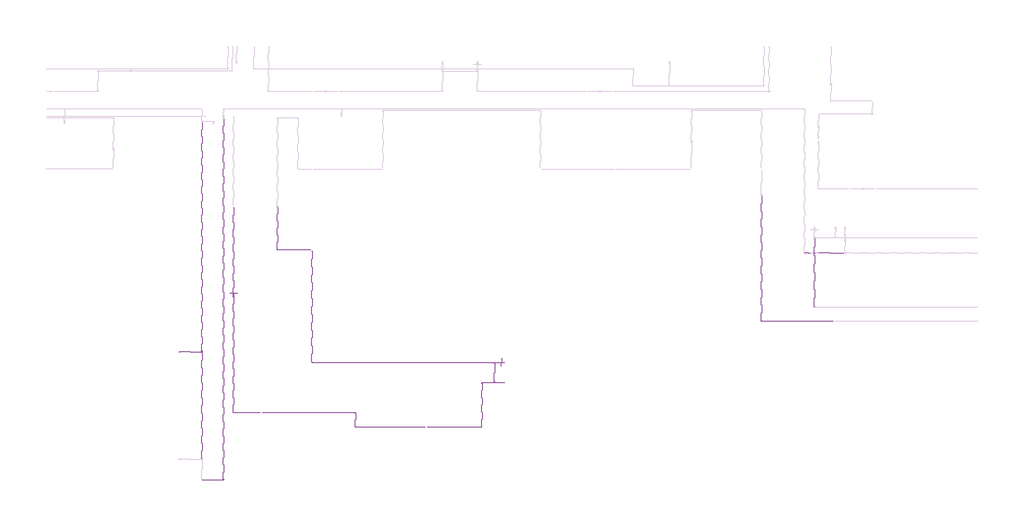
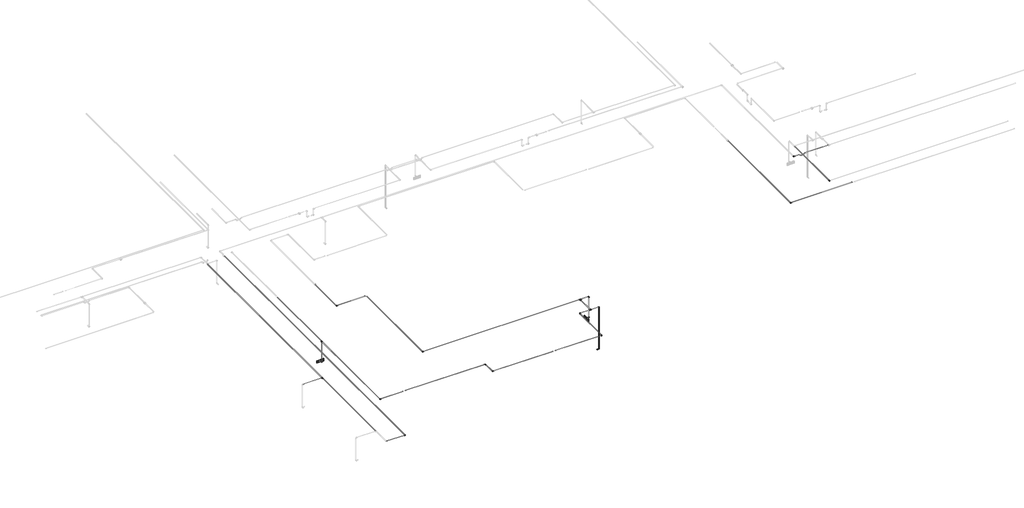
# One storey, part 2 of 13: 35 cable carrier segments, 20 cable carrier fittings, 2 alarms.
"""IFC4 building model written with IfcOpenShell, lengths in millimetres."""

from ifc_helpers import new_model, si_unit, point, frame, frame_2d, origin, place, context, project, spatial, circle_curve, trimmed, segment, composite_curve, outline, extrude, transform, mapped, element, save
from ifc_brep_helpers import plane_surface, cylinder_surface, advanced_brep
from components import alarm_4b7e8fd8, cable_carrier_fitting_69f1a801, cable_carrier_fitting_8fd13dfc

model = new_model("IFC4")

# Units and contexts
model_context = context("Model", 3, world=origin())
ifc_project = project(units=[si_unit("LENGTHUNIT", "METRE", prefix="MILLI")], contexts=[model_context])

# Site, building, storey
site = spatial("IfcSite", under=ifc_project)
building = spatial("IfcBuilding", under=site)
storey = spatial("IfcBuildingStorey", under=building, Name="2 этаж", Elevation=3500.0)

# Alarms
placement = place(None, origin())
alarm_shape = alarm_4b7e8fd8(model_context)
element("IfcAlarm", 1, ObjectType="RBZ_Оповещатель_Световой_Рубеж_ОПОП1-R3(грань) : ОПОП 1-R3 \"Выход\"", at=placement, inside=storey, context=model_context, shape_type="MappedRepresentation", body=[
    mapped(alarm_shape, transform((-3772.3240021, -5352.8629895, 6000.0), x_axis=(0.0, -1.0, 0.0), y_axis=(0.0, 0.0, 1.0), z_axis=(-1.0, 0.0, 0.0))),
])
element("IfcAlarm", 2, ObjectType="RBZ_Оповещатель_Световой_Рубеж_ОПОП1-R3(грань) : ОПОП 1-R3 \"Выход\"", at=placement, inside=storey, context=model_context, shape_type="MappedRepresentation", body=[
    mapped(alarm_shape, transform((-14174.8240021, -2680.3629895, 6000.0), x_axis=(-1.0, 0.0, 0.0), y_axis=(0.0, 0.0, 1.0), z_axis=(0.0, 1.0, 0.0))),
])

# Cable carrier fittings
cable_carrier_fitting_shape = cable_carrier_fitting_69f1a801(model_context)
element("IfcCableCarrierFitting", 3, ObjectType="ADSK_Поворот_Минимальный размер : Неспецифицируемый", at=placement, inside=storey, context=model_context, shape_type="MappedRepresentation", body=[
    mapped(cable_carrier_fitting_shape, transform((-9445.8240021, -7865.3629895, 6986.95), x_axis=(0.0, -1.0, 0.0), y_axis=(1.0, 0.0, 0.0), z_axis=(0.0, 0.0, 1.0))),
])
element("IfcCableCarrierFitting", 4, ObjectType="ADSK_Поворот_Минимальный размер : Неспецифицируемый", at=placement, inside=storey, context=model_context, shape_type="MappedRepresentation", body=[
    mapped(cable_carrier_fitting_shape, transform((-9445.8240021, -7305.3629895, 6986.95), x_axis=(0.0, 1.0, 0.0), y_axis=(-1.0, 0.0, 0.0), z_axis=(0.0, 0.0, 1.0))),
])
element("IfcCableCarrierFitting", 5, ObjectType="ADSK_Поворот_Минимальный размер : Неспецифицируемый", at=placement, inside=storey, context=model_context, shape_type="MappedRepresentation", body=[
    mapped(cable_carrier_fitting_shape, transform((-4545.8240021, -7865.3629895, 6986.95), x_axis=(1.0, 0.0, 0.0), y_axis=(0.0, 1.0, 0.0), z_axis=(0.0, 0.0, 1.0))),
])
element("IfcCableCarrierFitting", 6, ObjectType="ADSK_Поворот_Минимальный размер : Неспецифицируемый", at=placement, inside=storey, context=model_context, shape_type="MappedRepresentation", body=[
    mapped(cable_carrier_fitting_shape, transform((-12472.3240021, -980.3629895, 6986.95), x_axis=(0.0, -1.0, 0.0), y_axis=(1.0, 0.0, 0.0), z_axis=(0.0, 0.0, 1.0))),
])
element("IfcCableCarrierFitting", 7, ObjectType="ADSK_Поворот_Минимальный размер : Неспецифицируемый", at=placement, inside=storey, context=model_context, shape_type="MappedRepresentation", body=[
    mapped(cable_carrier_fitting_shape, transform((-4545.8240021, -6142.8629895, 6986.95), x_axis=(-1.0, 0.0, 0.0), y_axis=(0.0, -1.0, 0.0), z_axis=(0.0, 0.0, 1.0))),
])
element("IfcCableCarrierFitting", 8, ObjectType="ADSK_Поворот_Минимальный размер : Неспецифицируемый", at=placement, inside=storey, context=model_context, shape_type="MappedRepresentation", body=[
    mapped(cable_carrier_fitting_shape, transform((-11132.3240021, -5352.8629895, 6986.95), x_axis=(0.0, -1.0, 0.0), y_axis=(1.0, 0.0, 0.0), z_axis=(0.0, 0.0, 1.0))),
])
element("IfcCableCarrierFitting", 9, ObjectType="ADSK_Поворот_Минимальный размер : Неспецифицируемый", at=placement, inside=storey, context=model_context, shape_type="MappedRepresentation", body=[
    mapped(cable_carrier_fitting_shape, transform((8337.6759979, -3208.8629895, 6986.95), x_axis=(0.0, -1.0, 0.0), y_axis=(1.0, 0.0, 0.0), z_axis=(0.0, 0.0, 1.0))),
])
element("IfcCableCarrierFitting", 10, ObjectType="ADSK_Поворот_Минимальный размер : Неспецифицируемый", at=placement, inside=storey, context=model_context, shape_type="MappedRepresentation", body=[
    mapped(cable_carrier_fitting_shape, transform((6287.6759979, -3755.3629895, 6986.95), x_axis=(0.0, -1.0, 0.0), y_axis=(1.0, 0.0, 0.0), z_axis=(0.0, 0.0, 1.0))),
])
element("IfcCableCarrierFitting", 11, ObjectType="ADSK_Поворот_Минимальный размер : Неспецифицируемый", at=placement, inside=storey, context=model_context, shape_type="MappedRepresentation", body=[
    mapped(cable_carrier_fitting_shape, transform((-14554.8240021, -9910.3629895, 6990.0), x_axis=(1.0, 0.0, 0.0), y_axis=(0.0, 1.0, 0.0), z_axis=(0.0, 0.0, 1.0))),
])
element("IfcCableCarrierFitting", 12, ObjectType="ADSK_Поворот_Минимальный размер : Неспецифицируемый", at=placement, inside=storey, context=model_context, shape_type="MappedRepresentation", body=[
    mapped(cable_carrier_fitting_shape, transform((-14174.8240021, -7305.3629895, 6986.95), x_axis=(0.0, -0.9999999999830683, -5.819235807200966e-06), y_axis=(1.0000000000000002, 0.0, 0.0), z_axis=(0.0, -5.819235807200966e-06, 0.9999999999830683))),
])
element("IfcCableCarrierFitting", 13, ObjectType="ADSK_Поворот_Минимальный размер : Неспецифицируемый", at=placement, inside=storey, context=model_context, shape_type="MappedRepresentation", body=[
    mapped(cable_carrier_fitting_shape, transform((-14174.8240021, -2777.5627951, 6000.0), x_axis=(0.0, -1.0, 0.0), y_axis=(0.0, 0.0, 1.0), z_axis=(-1.0, 0.0, 0.0))),
])
element("IfcCableCarrierFitting", 14, ObjectType="ADSK_Поворот_Минимальный размер : Неспецифицируемый", at=placement, inside=storey, context=model_context, shape_type="MappedRepresentation", body=[
    mapped(cable_carrier_fitting_shape, transform((-3675.1241965, -6142.8629895, 5000.0), x_axis=(1.0, 0.0, 0.0), y_axis=(0.0, 0.0, 1.0), z_axis=(0.0, -1.0, 0.0))),
])
element("IfcCableCarrierFitting", 15, ObjectType="ADSK_Поворот_Минимальный размер : Неспецифицируемый", at=placement, inside=storey, context=model_context, shape_type="MappedRepresentation", body=[
    mapped(cable_carrier_fitting_shape, transform((-3675.1241965, -6142.8629895, 6986.95), x_axis=(0.0, 0.0, 1.0), y_axis=(-1.0, 0.0, 0.0), z_axis=(0.0, -1.0, 0.0))),
])
element("IfcCableCarrierFitting", 16, ObjectType="ADSK_Поворот_Минимальный размер : Неспецифицируемый", at=placement, inside=storey, context=model_context, shape_type="MappedRepresentation", body=[
    mapped(cable_carrier_fitting_shape, transform((-3675.1241965, -5352.8629895, 6000.0), x_axis=(1.0, 0.0, 0.0), y_axis=(0.0, 0.0, 1.0), z_axis=(0.0, -1.0, 0.0))),
])
element("IfcCableCarrierFitting", 17, ObjectType="ADSK_Поворот_Минимальный размер : Неспецифицируемый", at=placement, inside=storey, context=model_context, shape_type="MappedRepresentation", body=[
    mapped(cable_carrier_fitting_shape, transform((-3675.1241965, -5352.8629895, 6986.95), x_axis=(0.0, 0.0, 1.0), y_axis=(-1.0, 0.0, 0.0), z_axis=(0.0, -1.0, 0.0))),
])
element("IfcCableCarrierFitting", 18, ObjectType="ADSK_Поворот_Минимальный размер : Неспецифицируемый", at=placement, inside=storey, context=model_context, shape_type="MappedRepresentation", body=[
    mapped(cable_carrier_fitting_shape, transform((7960.1759979, -1105.3629895, 6990.0), x_axis=(0.0, -1.0, 0.0), y_axis=(1.0, 0.0, 0.0), z_axis=(0.0, 0.0, 1.0))),
])
cable_carrier_fitting_2_shape = cable_carrier_fitting_8fd13dfc(model_context)
element("IfcCableCarrierFitting", 19, ObjectType="ADSK_Тройник : ПВХ", at=placement, inside=storey, context=model_context, shape_type="MappedRepresentation", body=[
    mapped(cable_carrier_fitting_2_shape, transform((-4065.7263214, -5352.8629895, 6986.95), x_axis=(1.0, 0.0, 0.0), y_axis=(0.0, 1.0, 0.0), z_axis=(0.0, 0.0, 1.0))),
])
element("IfcCableCarrierFitting", 20, ObjectType="ADSK_Тройник : ПВХ", at=placement, inside=storey, context=model_context, shape_type="MappedRepresentation", body=[
    mapped(cable_carrier_fitting_2_shape, transform((-4065.7263214, -6142.8629895, 6986.95), x_axis=(-1.0, 0.0, 0.0), y_axis=(0.0, -1.0, 0.0), z_axis=(0.0, 0.0, 1.0))),
])
element("IfcCableCarrierFitting", 21, ObjectType="ADSK_Тройник : ПВХ", at=placement, inside=storey, context=model_context, shape_type="MappedRepresentation", body=[
    mapped(cable_carrier_fitting_2_shape, transform((-15397.3240021, -4942.8629895, 6990.0), x_axis=(0.0, -1.0, 0.0), y_axis=(1.0, 0.0, 0.0), z_axis=(0.0, 0.0, 1.0))),
])
element("IfcCableCarrierFitting", 22, ObjectType="ADSK_Тройник : ПВХ", at=placement, inside=storey, context=model_context, shape_type="MappedRepresentation", body=[
    mapped(cable_carrier_fitting_2_shape, transform((-14174.8240021, -2777.5627951, 6986.9500528), x_axis=(0.0, -0.9999999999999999, 1.539577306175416e-08), y_axis=(0.0, 1.539577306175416e-08, 0.9999999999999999), z_axis=(-1.0, 0.0, 0.0))),
])

# Cable carrier segments
element("IfcCableCarrierSegment", 23, ObjectType="Гофрированная труба", at=placement, inside=storey, context=model_context, shape_type="AdvancedBrep", body=[
    advanced_brep(
    [(-14164.8240021, -2747.5627951, 6986.9500524), (-14174.8240021, -2747.562795, 6996.9500524), (-14184.8240021, -2747.5627951, 6986.9500524), (-14174.8240021, -2747.5627953, 6976.9500524), (-14164.8240021, 653.1370105, 6986.95), (-14174.8240021, 653.1370103, 6976.95), (-14184.8240021, 653.1370105, 6986.95), (-14174.8240021, 653.1370106, 6996.95)],
    [
        (0, 1, circle_curve(frame((-14174.8240021, -2747.5627951, 6986.9500524), z_axis=(0.0, -1.0, 0.0), x_axis=(1.0, 0.0, 0.0)), 10.0)),
        (1, 2, circle_curve(frame((-14174.8240021, -2747.562795, 6986.9500524), z_axis=(0.0, -1.0, 0.0), x_axis=(1.0, 0.0, 0.0)), 10.0)),
        (2, 3, circle_curve(frame((-14174.8240021, -2747.5627951, 6986.9500524), z_axis=(0.0, -1.0, 0.0), x_axis=(1.0, 0.0, 0.0)), 10.0)),
        (3, 0, circle_curve(frame((-14174.8240021, -2747.5627953, 6986.9500524), z_axis=(0.0, -1.0, 0.0), x_axis=(1.0, 0.0, 0.0)), 10.0)),
        (4, 5, circle_curve(frame((-14174.8240021, 653.1370105, 6986.9500524), z_axis=(0.0, 1.0, 0.0), x_axis=(1.0, 0.0, 0.0)), 10.0)),
        (5, 6, circle_curve(frame((-14174.8240021, 653.1370103, 6986.9500524), z_axis=(0.0, 1.0, 0.0), x_axis=(1.0, 0.0, 0.0)), 10.0000524)),
        (6, 7, circle_curve(frame((-14174.8240021, 653.1370105, 6986.9500524), z_axis=(0.0, 1.0, 0.0), x_axis=(1.0, 0.0, 0.0)), 10.0)),
        (7, 4, circle_curve(frame((-14174.8240021, 653.1370106, 6986.9500524), z_axis=(0.0, 1.0, 0.0), x_axis=(1.0, 0.0, 0.0)), 9.9999476)),
        (0, 4),
        (7, 1),
        (6, 2),
        (5, 3),
    ],
    [
        plane_surface(frame((-14184.8240021, -2747.5627951, 6986.9500524), z_axis=(0.0, -1.0, 1.53957717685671e-08), x_axis=(0.0, 1.53957717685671e-08, 1.0))),
        plane_surface(frame((-14184.8240021, 653.1370105, 6986.95), z_axis=(0.0, 1.0, -1.5395770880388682e-08), x_axis=(0.0, 1.5395770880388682e-08, 1.0))),
        cylinder_surface(frame((-14174.8240021, -2747.5627951, 6986.9500524), z_axis=(0.0, -1.0, 0.0), x_axis=(1.0, 0.0, 0.0)), 10.0),
    ],
    [
        (0, [[1, 2, 3, 4]]),
        (1, [[5, 6, 7, 8]]),
        (2, [[-1, 9, -8, 10]]),
        (2, [[-2, -10, -7, 11]]),
        (2, [[-3, -11, -6, 12]]),
        (2, [[-4, -12, -5, -9]]),
    ],
),
])
element("IfcCableCarrierSegment", 24, ObjectType="Гофрированная труба", at=placement, inside=storey, context=model_context, shape_type="SweptSolid", body=[
    extrude(outline(composite_curve([segment(trimmed(circle_curve(frame_2d((-7305.3629895, 6986.95)), 10.0), [point((-7295.3629895, 6986.9500582))], [point((-7305.3629313, 6976.95))], False, "CARTESIAN"), True, "CONTINUOUS"), segment(trimmed(circle_curve(frame_2d((-7305.3629895, 6986.95)), 10.0), [point((-7305.3629313, 6976.95))], [point((-7315.3629895, 6986.9499418))], False, "CARTESIAN"), True, "CONTINUOUS"), segment(trimmed(circle_curve(frame_2d((-7305.3629895, 6986.95)), 10.0), [point((-7315.3629895, 6986.9499418))], [point((-7305.3630477, 6996.95))], False, "CARTESIAN"), True, "CONTINUOUS"), segment(trimmed(circle_curve(frame_2d((-7305.3629895, 6986.95)), 10.0), [point((-7305.3630477, 6996.95))], [point((-7295.3629895, 6986.9500582))], False, "CARTESIAN"), True, "CONTINUOUS")], self_intersect=False)), frame((-14153.8240021, 0.0, 0.0), z_axis=(1.0, 0.0, 0.0), x_axis=(0.0, 1.0, 0.0)), (0.0, 0.0, 1.0), 1015.0),
])
element("IfcCableCarrierSegment", 25, ObjectType="Гофрированная труба", at=placement, inside=storey, context=model_context, shape_type="SweptSolid", body=[
    extrude(outline(composite_curve([segment(trimmed(circle_curve(frame_2d((-7305.3629895, 6986.95)), 10.0), [point((-7315.3629895, 6986.95))], [point((-7305.3629895, 6996.95))], False, "CARTESIAN"), True, "CONTINUOUS"), segment(trimmed(circle_curve(frame_2d((-7305.3629895, 6986.95)), 10.0), [point((-7305.3629895, 6996.95))], [point((-7295.3629895, 6986.95))], False, "CARTESIAN"), True, "CONTINUOUS"), segment(trimmed(circle_curve(frame_2d((-7305.3629895, 6986.95)), 10.0), [point((-7295.3629895, 6986.95))], [point((-7305.3629895, 6976.95))], False, "CARTESIAN"), True, "CONTINUOUS"), segment(trimmed(circle_curve(frame_2d((-7305.3629895, 6986.95)), 10.0), [point((-7305.3629895, 6976.95))], [point((-7315.3629895, 6986.95))], False, "CARTESIAN"), True, "CONTINUOUS")], self_intersect=False)), frame((-13045.8240021, 0.0, 0.0), z_axis=(1.0, 0.0, 0.0), x_axis=(0.0, 1.0, 0.0)), (0.0, 0.0, 1.0), 3579.0),
])
element("IfcCableCarrierSegment", 26, ObjectType="Гофрированная труба", at=placement, inside=storey, context=model_context, shape_type="SweptSolid", body=[
    extrude(outline(composite_curve([segment(trimmed(circle_curve(frame_2d((6986.95, -9445.8240021)), 10.0), [point((6986.95, -9435.8240021))], [point((6996.95, -9445.8240021))], False, "CARTESIAN"), True, "CONTINUOUS"), segment(trimmed(circle_curve(frame_2d((6986.95, -9445.8240021)), 10.0), [point((6996.95, -9445.8240021))], [point((6986.95, -9455.8240021))], False, "CARTESIAN"), True, "CONTINUOUS"), segment(trimmed(circle_curve(frame_2d((6986.95, -9445.8240021)), 10.0), [point((6986.95, -9455.8240021))], [point((6976.95, -9445.8240021))], False, "CARTESIAN"), True, "CONTINUOUS"), segment(trimmed(circle_curve(frame_2d((6986.95, -9445.8240021)), 10.0), [point((6976.95, -9445.8240021))], [point((6986.95, -9435.8240021))], False, "CARTESIAN"), True, "CONTINUOUS")], self_intersect=False)), frame((0.0, -7844.3629895, 0.0), z_axis=(0.0, 1.0, 0.0), x_axis=(0.0, 0.0, 1.0)), (0.0, 0.0, 1.0), 518.0),
])
element("IfcCableCarrierSegment", 27, ObjectType="Гофрированная труба", at=placement, inside=storey, context=model_context, shape_type="SweptSolid", body=[
    extrude(outline(composite_curve([segment(trimmed(circle_curve(frame_2d((-7865.3629895, 6986.95)), 10.0), [point((-7855.3629895, 6986.95))], [point((-7865.3629895, 6976.95))], False, "CARTESIAN"), True, "CONTINUOUS"), segment(trimmed(circle_curve(frame_2d((-7865.3629895, 6986.95)), 10.0), [point((-7865.3629895, 6976.95))], [point((-7875.3629895, 6986.95))], False, "CARTESIAN"), True, "CONTINUOUS"), segment(trimmed(circle_curve(frame_2d((-7865.3629895, 6986.95)), 10.0), [point((-7875.3629895, 6986.95))], [point((-7865.3629895, 6996.95))], False, "CARTESIAN"), True, "CONTINUOUS"), segment(trimmed(circle_curve(frame_2d((-7865.3629895, 6986.95)), 10.0), [point((-7865.3629895, 6996.95))], [point((-7855.3629895, 6986.95))], False, "CARTESIAN"), True, "CONTINUOUS")], self_intersect=False)), frame((-9424.8240021, 0.0, 0.0), z_axis=(1.0, 0.0, 0.0), x_axis=(0.0, 1.0, 0.0)), (0.0, 0.0, 1.0), 2686.0),
])
element("IfcCableCarrierSegment", 28, ObjectType="Гофрированная труба", at=placement, inside=storey, context=model_context, shape_type="SweptSolid", body=[
    extrude(outline(composite_curve([segment(trimmed(circle_curve(frame_2d((-7865.3629895, 6986.95)), 10.0), [point((-7875.3629895, 6986.95))], [point((-7865.3629895, 6996.95))], False, "CARTESIAN"), True, "CONTINUOUS"), segment(trimmed(circle_curve(frame_2d((-7865.3629895, 6986.95)), 10.0), [point((-7865.3629895, 6996.95))], [point((-7855.3629895, 6986.95))], False, "CARTESIAN"), True, "CONTINUOUS"), segment(trimmed(circle_curve(frame_2d((-7865.3629895, 6986.95)), 10.0), [point((-7855.3629895, 6986.95))], [point((-7865.3629895, 6976.95))], False, "CARTESIAN"), True, "CONTINUOUS"), segment(trimmed(circle_curve(frame_2d((-7865.3629895, 6986.95)), 10.0), [point((-7865.3629895, 6976.95))], [point((-7875.3629895, 6986.95))], False, "CARTESIAN"), True, "CONTINUOUS")], self_intersect=False)), frame((-6645.8240021, 0.0, 0.0), z_axis=(1.0, 0.0, 0.0), x_axis=(0.0, 1.0, 0.0)), (0.0, 0.0, 1.0), 2079.0),
])
element("IfcCableCarrierSegment", 29, ObjectType="Гофрированная труба", at=placement, inside=storey, context=model_context, shape_type="SweptSolid", body=[
    extrude(outline(composite_curve([segment(trimmed(circle_curve(frame_2d((6986.95, -4545.8240021)), 10.0), [point((6986.95, -4555.8240021))], [point((6976.95, -4545.8240021))], False, "CARTESIAN"), True, "CONTINUOUS"), segment(trimmed(circle_curve(frame_2d((6986.95, -4545.8240021)), 10.0), [point((6976.95, -4545.8240021))], [point((6986.95, -4535.8240021))], False, "CARTESIAN"), True, "CONTINUOUS"), segment(trimmed(circle_curve(frame_2d((6986.95, -4545.8240021)), 10.0), [point((6986.95, -4535.8240021))], [point((6996.95, -4545.8240021))], False, "CARTESIAN"), True, "CONTINUOUS"), segment(trimmed(circle_curve(frame_2d((6986.95, -4545.8240021)), 10.0), [point((6996.95, -4545.8240021))], [point((6986.95, -4555.8240021))], False, "CARTESIAN"), True, "CONTINUOUS")], self_intersect=False)), frame((0.0, -7844.3629895, 0.0), z_axis=(0.0, 1.0, 0.0), x_axis=(0.0, 0.0, 1.0)), (0.0, 0.0, 1.0), 1680.5),
])
element("IfcCableCarrierSegment", 30, ObjectType="Гофрированная труба", at=placement, inside=storey, context=model_context, shape_type="SweptSolid", body=[
    extrude(outline(composite_curve([segment(trimmed(circle_curve(frame_2d((-5352.8629895, 6986.95)), 10.0), [point((-5342.8629895, 6986.95))], [point((-5352.8629895, 6976.95))], False, "CARTESIAN"), True, "CONTINUOUS"), segment(trimmed(circle_curve(frame_2d((-5352.8629895, 6986.95)), 10.0), [point((-5352.8629895, 6976.95))], [point((-5362.8629895, 6986.95))], False, "CARTESIAN"), True, "CONTINUOUS"), segment(trimmed(circle_curve(frame_2d((-5352.8629895, 6986.95)), 10.0), [point((-5362.8629895, 6986.95))], [point((-5352.8629895, 6996.95))], False, "CARTESIAN"), True, "CONTINUOUS"), segment(trimmed(circle_curve(frame_2d((-5352.8629895, 6986.95)), 10.0), [point((-5352.8629895, 6996.95))], [point((-5342.8629895, 6986.95))], False, "CARTESIAN"), True, "CONTINUOUS")], self_intersect=False)), frame((-11111.3240021, 0.0, 0.0), z_axis=(1.0, 0.0, 0.0), x_axis=(0.0, 1.0, 0.0)), (0.0, 0.0, 1.0), 7015.5976807),
])
element("IfcCableCarrierSegment", 31, ObjectType="Гофрированная труба", at=placement, inside=storey, context=model_context, shape_type="SweptSolid", body=[
    extrude(outline(composite_curve([segment(trimmed(circle_curve(frame_2d((6986.95, -11132.3240021)), 10.0), [point((6986.95, -11122.3240021))], [point((6996.95, -11132.3240021))], False, "CARTESIAN"), True, "CONTINUOUS"), segment(trimmed(circle_curve(frame_2d((6986.95, -11132.3240021)), 10.0), [point((6996.95, -11132.3240021))], [point((6986.95, -11142.3240021))], False, "CARTESIAN"), True, "CONTINUOUS"), segment(trimmed(circle_curve(frame_2d((6986.95, -11132.3240021)), 10.0), [point((6986.95, -11142.3240021))], [point((6976.95, -11132.3240021))], False, "CARTESIAN"), True, "CONTINUOUS"), segment(trimmed(circle_curve(frame_2d((6986.95, -11132.3240021)), 10.0), [point((6976.95, -11132.3240021))], [point((6986.95, -11122.3240021))], False, "CARTESIAN"), True, "CONTINUOUS")], self_intersect=False)), frame((0.0, -5331.8629895, 0.0), z_axis=(0.0, 1.0, 0.0), x_axis=(0.0, 0.0, 1.0)), (0.0, 0.0, 1.0), 4305.0),
])
element("IfcCableCarrierSegment", 32, ObjectType="Гофрированная труба", at=placement, inside=storey, context=model_context, shape_type="SweptSolid", body=[
    extrude(outline(composite_curve([segment(trimmed(circle_curve(frame_2d((-980.3629895, 6986.95)), 10.0), [point((-970.3629895, 6986.95))], [point((-980.3629895, 6976.95))], False, "CARTESIAN"), True, "CONTINUOUS"), segment(trimmed(circle_curve(frame_2d((-980.3629895, 6986.95)), 10.0), [point((-980.3629895, 6976.95))], [point((-990.3629895, 6986.95))], False, "CARTESIAN"), True, "CONTINUOUS"), segment(trimmed(circle_curve(frame_2d((-980.3629895, 6986.95)), 10.0), [point((-990.3629895, 6986.95))], [point((-980.3629895, 6996.95))], False, "CARTESIAN"), True, "CONTINUOUS"), segment(trimmed(circle_curve(frame_2d((-980.3629895, 6986.95)), 10.0), [point((-980.3629895, 6996.95))], [point((-970.3629895, 6986.95))], False, "CARTESIAN"), True, "CONTINUOUS")], self_intersect=False)), frame((-12451.3240021, 0.0, 0.0), z_axis=(1.0, 0.0, 0.0), x_axis=(0.0, 1.0, 0.0)), (0.0, 0.0, 1.0), 1272.5),
])
element("IfcCableCarrierSegment", 33, ObjectType="Гофрированная труба", at=placement, inside=storey, context=model_context, shape_type="SweptSolid", body=[
    extrude(outline(composite_curve([segment(trimmed(circle_curve(frame_2d((6986.95, -4065.7263214)), 10.0), [point((6986.95, -4055.7263214))], [point((6996.95, -4065.7263214))], False, "CARTESIAN"), True, "CONTINUOUS"), segment(trimmed(circle_curve(frame_2d((6986.95, -4065.7263214)), 10.0), [point((6996.95, -4065.7263214))], [point((6986.95, -4075.7263214))], False, "CARTESIAN"), True, "CONTINUOUS"), segment(trimmed(circle_curve(frame_2d((6986.95, -4065.7263214)), 10.0), [point((6986.95, -4075.7263214))], [point((6976.95, -4065.7263214))], False, "CARTESIAN"), True, "CONTINUOUS"), segment(trimmed(circle_curve(frame_2d((6986.95, -4065.7263214)), 10.0), [point((6976.95, -4065.7263214))], [point((6986.95, -4055.7263214))], False, "CARTESIAN"), True, "CONTINUOUS")], self_intersect=False)), frame((0.0, -6112.8629895, 0.0), z_axis=(0.0, 1.0, 0.0), x_axis=(0.0, 0.0, 1.0)), (0.0, 0.0, 1.0), 730.0),
])
element("IfcCableCarrierSegment", 34, ObjectType="Гофрированная труба", at=placement, inside=storey, context=model_context, shape_type="SweptSolid", body=[
    extrude(outline(composite_curve([segment(trimmed(circle_curve(frame_2d((-6142.8629895, 6986.95)), 10.0), [point((-6152.8629895, 6986.95))], [point((-6142.8629895, 6996.95))], False, "CARTESIAN"), True, "CONTINUOUS"), segment(trimmed(circle_curve(frame_2d((-6142.8629895, 6986.95)), 10.0), [point((-6142.8629895, 6996.95))], [point((-6132.8629895, 6986.95))], False, "CARTESIAN"), True, "CONTINUOUS"), segment(trimmed(circle_curve(frame_2d((-6142.8629895, 6986.95)), 10.0), [point((-6132.8629895, 6986.95))], [point((-6142.8629895, 6976.95))], False, "CARTESIAN"), True, "CONTINUOUS"), segment(trimmed(circle_curve(frame_2d((-6142.8629895, 6986.95)), 10.0), [point((-6142.8629895, 6976.95))], [point((-6152.8629895, 6986.95))], False, "CARTESIAN"), True, "CONTINUOUS")], self_intersect=False)), frame((-4524.8240021, 0.0, 0.0), z_axis=(1.0, 0.0, 0.0), x_axis=(0.0, 1.0, 0.0)), (0.0, 0.0, 1.0), 429.0976807),
])
element("IfcCableCarrierSegment", 35, ObjectType="Гофрированная труба", at=placement, inside=storey, context=model_context, shape_type="SweptSolid", body=[
    extrude(outline(composite_curve([segment(trimmed(circle_curve(frame_2d((6986.95, -12472.3240021)), 10.0), [point((6986.95, -12462.3240021))], [point((6996.95, -12472.3240021))], False, "CARTESIAN"), True, "CONTINUOUS"), segment(trimmed(circle_curve(frame_2d((6986.95, -12472.3240021)), 10.0), [point((6996.95, -12472.3240021))], [point((6986.95, -12482.3240021))], False, "CARTESIAN"), True, "CONTINUOUS"), segment(trimmed(circle_curve(frame_2d((6986.95, -12472.3240021)), 10.0), [point((6986.95, -12482.3240021))], [point((6976.95, -12472.3240021))], False, "CARTESIAN"), True, "CONTINUOUS"), segment(trimmed(circle_curve(frame_2d((6986.95, -12472.3240021)), 10.0), [point((6976.95, -12472.3240021))], [point((6986.95, -12462.3240021))], False, "CARTESIAN"), True, "CONTINUOUS")], self_intersect=False)), frame((0.0, -959.3629895, 0.0), z_axis=(0.0, 1.0, 0.0), x_axis=(0.0, 0.0, 1.0)), (0.0, 0.0, 1.0), 1633.0),
])
element("IfcCableCarrierSegment", 36, ObjectType="Гофрированная труба", at=placement, inside=storey, context=model_context, shape_type="SweptSolid", body=[
    extrude(outline(composite_curve([segment(trimmed(circle_curve(frame_2d((6986.95, 6287.6759979)), 10.0), [point((6986.95, 6297.6759979))], [point((6996.95, 6287.6759979))], False, "CARTESIAN"), True, "CONTINUOUS"), segment(trimmed(circle_curve(frame_2d((6986.95, 6287.6759979)), 10.0), [point((6996.95, 6287.6759979))], [point((6986.95, 6277.6759979))], False, "CARTESIAN"), True, "CONTINUOUS"), segment(trimmed(circle_curve(frame_2d((6986.95, 6287.6759979)), 10.0), [point((6986.95, 6277.6759979))], [point((6976.95, 6287.6759979))], False, "CARTESIAN"), True, "CONTINUOUS"), segment(trimmed(circle_curve(frame_2d((6986.95, 6287.6759979)), 10.0), [point((6976.95, 6287.6759979))], [point((6986.95, 6297.6759979))], False, "CARTESIAN"), True, "CONTINUOUS")], self_intersect=False)), frame((0.0, -3734.3629895, 0.0), z_axis=(0.0, 1.0, 0.0), x_axis=(0.0, 0.0, 1.0)), (0.0, 0.0, 1.0), 4853.0),
])
element("IfcCableCarrierSegment", 37, ObjectType="Гофрированная труба", at=placement, inside=storey, context=model_context, shape_type="SweptSolid", body=[
    extrude(outline(composite_curve([segment(trimmed(circle_curve(frame_2d((-3755.3629895, 6986.95)), 10.0), [point((-3745.3629895, 6986.95))], [point((-3755.3629895, 6976.95))], False, "CARTESIAN"), True, "CONTINUOUS"), segment(trimmed(circle_curve(frame_2d((-3755.3629895, 6986.95)), 10.0), [point((-3755.3629895, 6976.95))], [point((-3765.3629895, 6986.95))], False, "CARTESIAN"), True, "CONTINUOUS"), segment(trimmed(circle_curve(frame_2d((-3755.3629895, 6986.95)), 10.0), [point((-3765.3629895, 6986.95))], [point((-3755.3629895, 6996.95))], False, "CARTESIAN"), True, "CONTINUOUS"), segment(trimmed(circle_curve(frame_2d((-3755.3629895, 6986.95)), 10.0), [point((-3755.3629895, 6996.95))], [point((-3745.3629895, 6986.95))], False, "CARTESIAN"), True, "CONTINUOUS")], self_intersect=False)), frame((6308.6759979, 0.0, 0.0), z_axis=(1.0, 0.0, 0.0), x_axis=(0.0, 1.0, 0.0)), (0.0, 0.0, 1.0), 2752.5),
])
element("IfcCableCarrierSegment", 38, ObjectType="Гофрированная труба", at=placement, inside=storey, context=model_context, shape_type="SweptSolid", body=[
    extrude(outline(composite_curve([segment(trimmed(circle_curve(frame_2d((6986.95, 8337.6759979)), 10.0), [point((6986.95, 8347.6759979))], [point((6996.95, 8337.6759979))], False, "CARTESIAN"), True, "CONTINUOUS"), segment(trimmed(circle_curve(frame_2d((6986.95, 8337.6759979)), 10.0), [point((6996.95, 8337.6759979))], [point((6986.95, 8327.6759979))], False, "CARTESIAN"), True, "CONTINUOUS"), segment(trimmed(circle_curve(frame_2d((6986.95, 8337.6759979)), 10.0), [point((6986.95, 8327.6759979))], [point((6976.95, 8337.6759979))], False, "CARTESIAN"), True, "CONTINUOUS"), segment(trimmed(circle_curve(frame_2d((6986.95, 8337.6759979)), 10.0), [point((6976.95, 8337.6759979))], [point((6986.95, 8347.6759979))], False, "CARTESIAN"), True, "CONTINUOUS")], self_intersect=False)), frame((0.0, -3187.8629895, 0.0), z_axis=(0.0, 1.0, 0.0), x_axis=(0.0, 0.0, 1.0)), (0.0, 0.0, 1.0), 2652.5),
])
element("IfcCableCarrierSegment", 39, ObjectType="Гофрированная труба", at=placement, inside=storey, context=model_context, shape_type="SweptSolid", body=[
    extrude(outline(composite_curve([segment(trimmed(circle_curve(frame_2d((-1105.3629895, 6940.0)), 10.0), [point((-1095.3629895, 6940.0))], [point((-1105.3629895, 6930.0))], False, "CARTESIAN"), True, "CONTINUOUS"), segment(trimmed(circle_curve(frame_2d((-1105.3629895, 6940.0)), 10.0), [point((-1105.3629895, 6930.0))], [point((-1115.3629895, 6940.0))], False, "CARTESIAN"), True, "CONTINUOUS"), segment(trimmed(circle_curve(frame_2d((-1105.3629895, 6940.0)), 10.0), [point((-1115.3629895, 6940.0))], [point((-1105.3629895, 6950.0))], False, "CARTESIAN"), True, "CONTINUOUS"), segment(trimmed(circle_curve(frame_2d((-1105.3629895, 6940.0)), 10.0), [point((-1105.3629895, 6950.0))], [point((-1095.3629895, 6940.0))], False, "CARTESIAN"), True, "CONTINUOUS")], self_intersect=False)), frame((8286.9564551, 0.0, 0.0), z_axis=(1.0, 0.0, 0.0), x_axis=(0.0, 1.0, 0.0)), (0.0, 0.0, 1.0), 108.0075428),
])
element("IfcCableCarrierSegment", 40, ObjectType="Гофрированная труба", at=placement, inside=storey, context=model_context, shape_type="SweptSolid", body=[
    extrude(outline(composite_curve([segment(trimmed(circle_curve(frame_2d((-9910.3629895, 6990.0)), 10.0), [point((-9900.3629895, 6990.0))], [point((-9910.3629895, 6980.0))], False, "CARTESIAN"), True, "CONTINUOUS"), segment(trimmed(circle_curve(frame_2d((-9910.3629895, 6990.0)), 10.0), [point((-9910.3629895, 6980.0))], [point((-9920.3629895, 6990.0))], False, "CARTESIAN"), True, "CONTINUOUS"), segment(trimmed(circle_curve(frame_2d((-9910.3629895, 6990.0)), 10.0), [point((-9920.3629895, 6990.0))], [point((-9910.3629895, 7000.0))], False, "CARTESIAN"), True, "CONTINUOUS"), segment(trimmed(circle_curve(frame_2d((-9910.3629895, 6990.0)), 10.0), [point((-9910.3629895, 7000.0))], [point((-9900.3629895, 6990.0))], False, "CARTESIAN"), True, "CONTINUOUS")], self_intersect=False)), frame((-15376.3240021, 0.0, 0.0), z_axis=(1.0, 0.0, 0.0), x_axis=(0.0, 1.0, 0.0)), (0.0, 0.0, 1.0), 800.5),
])
element("IfcCableCarrierSegment", 41, ObjectType="Гофрированная труба", at=placement, inside=storey, context=model_context, shape_type="SweptSolid", body=[
    extrude(outline(composite_curve([segment(trimmed(circle_curve(frame_2d((-4942.8629895, 6990.0)), 10.0), [point((-4932.8629895, 6990.0))], [point((-4942.8629895, 6980.0))], False, "CARTESIAN"), True, "CONTINUOUS"), segment(trimmed(circle_curve(frame_2d((-4942.8629895, 6990.0)), 10.0), [point((-4942.8629895, 6980.0))], [point((-4952.8629895, 6990.0))], False, "CARTESIAN"), True, "CONTINUOUS"), segment(trimmed(circle_curve(frame_2d((-4942.8629895, 6990.0)), 10.0), [point((-4952.8629895, 6990.0))], [point((-4942.8629895, 7000.0))], False, "CARTESIAN"), True, "CONTINUOUS"), segment(trimmed(circle_curve(frame_2d((-4942.8629895, 6990.0)), 10.0), [point((-4942.8629895, 7000.0))], [point((-4932.8629895, 6990.0))], False, "CARTESIAN"), True, "CONTINUOUS")], self_intersect=False)), frame((-16268.5238077, 0.0, 0.0), z_axis=(1.0, 0.0, 0.0), x_axis=(0.0, 1.0, 0.0)), (0.0, 0.0, 1.0), 841.1998056),
])
element("IfcCableCarrierSegment", 42, ObjectType="Гофрированная труба", at=placement, inside=storey, context=model_context, shape_type="SweptSolid", body=[
    extrude(outline(composite_curve([segment(trimmed(circle_curve(frame_2d((6990.0, -15397.3240021)), 10.0), [point((6990.0, -15387.3240021))], [point((7000.0, -15397.3240021))], False, "CARTESIAN"), True, "CONTINUOUS"), segment(trimmed(circle_curve(frame_2d((6990.0, -15397.3240021)), 10.0), [point((7000.0, -15397.3240021))], [point((6990.0, -15407.3240021))], False, "CARTESIAN"), True, "CONTINUOUS"), segment(trimmed(circle_curve(frame_2d((6990.0, -15397.3240021)), 10.0), [point((6990.0, -15407.3240021))], [point((6980.0, -15397.3240021))], False, "CARTESIAN"), True, "CONTINUOUS"), segment(trimmed(circle_curve(frame_2d((6990.0, -15397.3240021)), 10.0), [point((6980.0, -15397.3240021))], [point((6990.0, -15387.3240021))], False, "CARTESIAN"), True, "CONTINUOUS")], self_intersect=False)), frame((0.0, -9080.3629895, 0.0), z_axis=(0.0, 1.0, 0.0), x_axis=(0.0, 0.0, 1.0)), (0.0, 0.0, 1.0), 4107.5),
])
element("IfcCableCarrierSegment", 43, ObjectType="Гофрированная труба", at=placement, inside=storey, context=model_context, shape_type="SweptSolid", body=[
    extrude(outline(composite_curve([segment(trimmed(circle_curve(frame_2d((6990.0, -14554.8240021)), 10.0), [point((6990.0, -14564.8240021))], [point((6980.0, -14554.8240021))], False, "CARTESIAN"), True, "CONTINUOUS"), segment(trimmed(circle_curve(frame_2d((6990.0, -14554.8240021)), 10.0), [point((6980.0, -14554.8240021))], [point((6990.0, -14544.8240021))], False, "CARTESIAN"), True, "CONTINUOUS"), segment(trimmed(circle_curve(frame_2d((6990.0, -14554.8240021)), 10.0), [point((6990.0, -14544.8240021))], [point((7000.0, -14554.8240021))], False, "CARTESIAN"), True, "CONTINUOUS"), segment(trimmed(circle_curve(frame_2d((6990.0, -14554.8240021)), 10.0), [point((7000.0, -14554.8240021))], [point((6990.0, -14564.8240021))], False, "CARTESIAN"), True, "CONTINUOUS")], self_intersect=False)), frame((0.0, -9889.3629895, 0.0), z_axis=(0.0, 1.0, 0.0), x_axis=(0.0, 0.0, 1.0)), (0.0, 0.0, 1.0), 13992.3105887),
])
element("IfcCableCarrierSegment", 44, ObjectType="Гофрированная труба", at=placement, inside=storey, context=model_context, shape_type="SweptSolid", body=[
    extrude(outline(composite_curve([segment(trimmed(circle_curve(frame_2d((6990.0, -15397.3240021)), 10.0), [point((6990.0, -15407.3240021))], [point((6980.0, -15397.3240021))], False, "CARTESIAN"), True, "CONTINUOUS"), segment(trimmed(circle_curve(frame_2d((6990.0, -15397.3240021)), 10.0), [point((6980.0, -15397.3240021))], [point((6990.0, -15387.3240021))], False, "CARTESIAN"), True, "CONTINUOUS"), segment(trimmed(circle_curve(frame_2d((6990.0, -15397.3240021)), 10.0), [point((6990.0, -15387.3240021))], [point((7000.0, -15397.3240021))], False, "CARTESIAN"), True, "CONTINUOUS"), segment(trimmed(circle_curve(frame_2d((6990.0, -15397.3240021)), 10.0), [point((7000.0, -15397.3240021))], [point((6990.0, -15407.3240021))], False, "CARTESIAN"), True, "CONTINUOUS")], self_intersect=False)), frame((0.0, -4912.8629895, 0.0), z_axis=(0.0, 1.0, 0.0), x_axis=(0.0, 0.0, 1.0)), (0.0, 0.0, 1.0), 8879.6998056),
])
element("IfcCableCarrierSegment", 45, ObjectType="Гофрированная труба", at=placement, inside=storey, context=model_context, shape_type="SweptSolid", body=[
    extrude(outline(composite_curve([segment(trimmed(circle_curve(frame_2d((-1105.3629895, 6990.0)), 10.0), [point((-1095.3629895, 6990.0))], [point((-1105.3629895, 6980.0))], False, "CARTESIAN"), True, "CONTINUOUS"), segment(trimmed(circle_curve(frame_2d((-1105.3629895, 6990.0)), 10.0), [point((-1105.3629895, 6980.0))], [point((-1115.3629895, 6990.0))], False, "CARTESIAN"), True, "CONTINUOUS"), segment(trimmed(circle_curve(frame_2d((-1105.3629895, 6990.0)), 10.0), [point((-1115.3629895, 6990.0))], [point((-1105.3629895, 7000.0))], False, "CARTESIAN"), True, "CONTINUOUS"), segment(trimmed(circle_curve(frame_2d((-1105.3629895, 6990.0)), 10.0), [point((-1105.3629895, 7000.0))], [point((-1095.3629895, 6990.0))], False, "CARTESIAN"), True, "CONTINUOUS")], self_intersect=False)), frame((8463.5325404, 0.0, 0.0), z_axis=(1.0, 0.0, 0.0), x_axis=(0.0, 1.0, 0.0)), (0.0, 0.0, 1.0), 1044.1434575),
])
element("IfcCableCarrierSegment", 46, ObjectType="Гофрированная труба", at=placement, inside=storey, context=model_context, shape_type="SweptSolid", body=[
    extrude(outline(composite_curve([segment(trimmed(circle_curve(frame_2d((0.0, -10.0)), 10.0), [point((0.0, 0.0))], [point((10.0000001, -10.0))], False, "CARTESIAN"), True, "CONTINUOUS"), segment(trimmed(circle_curve(frame_2d((0.0, -10.0)), 10.0), [point((10.0000001, -10.0))], [point((0.0, -20.0))], False, "CARTESIAN"), True, "CONTINUOUS"), segment(trimmed(circle_curve(frame_2d((0.0, -10.0)), 10.0), [point((0.0, -20.0))], [point((-10.0, -10.0))], False, "CARTESIAN"), True, "CONTINUOUS"), segment(trimmed(circle_curve(frame_2d((0.0, -10.0)), 10.0), [point((-10.0, -10.0))], [point((0.0, 0.0))], False, "CARTESIAN"), True, "CONTINUOUS")], self_intersect=False)), frame((8410.8132403, -1095.3629895, 6946.5649712), z_axis=(0.7071067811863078, 0.0, 0.7071067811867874), x_axis=(0.7071067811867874, 0.0, -0.7071067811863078)), (0.0, 0.0, 1.0), 52.1421356),
])
element("IfcCableCarrierSegment", 47, ObjectType="Гофрированная труба", at=placement, inside=storey, context=model_context, shape_type="SweptSolid", body=[
    extrude(outline(composite_curve([segment(trimmed(circle_curve(frame_2d((-1105.3629895, 6990.0)), 10.0), [point((-1095.3629895, 6990.0))], [point((-1105.3629895, 6980.0))], False, "CARTESIAN"), True, "CONTINUOUS"), segment(trimmed(circle_curve(frame_2d((-1105.3629895, 6990.0)), 10.0), [point((-1105.3629895, 6980.0))], [point((-1115.3629895, 6990.0))], False, "CARTESIAN"), True, "CONTINUOUS"), segment(trimmed(circle_curve(frame_2d((-1105.3629895, 6990.0)), 10.0), [point((-1115.3629895, 6990.0))], [point((-1105.3629895, 7000.0))], False, "CARTESIAN"), True, "CONTINUOUS"), segment(trimmed(circle_curve(frame_2d((-1105.3629895, 6990.0)), 10.0), [point((-1105.3629895, 7000.0))], [point((-1095.3629895, 6990.0))], False, "CARTESIAN"), True, "CONTINUOUS")], self_intersect=False)), frame((7981.1759979, 0.0, 0.0), z_axis=(1.0, 0.0, 0.0), x_axis=(0.0, 1.0, 0.0)), (0.0, 0.0, 1.0), 237.2119147),
])
element("IfcCableCarrierSegment", 48, ObjectType="Гофрированная труба", at=placement, inside=storey, context=model_context, shape_type="SweptSolid", body=[
    extrude(outline(composite_curve([segment(trimmed(circle_curve(frame_2d((0.0, 10.0)), 10.0), [point((0.0, 20.0))], [point((10.0, 10.0))], False, "CARTESIAN"), True, "CONTINUOUS"), segment(trimmed(circle_curve(frame_2d((0.0, 10.0)), 10.0), [point((10.0, 10.0))], [point((0.0, 0.0))], False, "CARTESIAN"), True, "CONTINUOUS"), segment(trimmed(circle_curve(frame_2d((0.0, 10.0)), 10.0), [point((0.0, 0.0))], [point((-10.0000001, 10.0))], False, "CARTESIAN"), True, "CONTINUOUS"), segment(trimmed(circle_curve(frame_2d((0.0, 10.0)), 10.0), [point((-10.0000001, 10.0))], [point((0.0, 20.0))], False, "CARTESIAN"), True, "CONTINUOUS")], self_intersect=False)), frame((8271.1072127, -1115.3629895, 6946.5649712), z_axis=(-0.7071067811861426, 0.0, 0.7071067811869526), x_axis=(0.7071067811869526, 0.0, 0.7071067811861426)), (0.0, 0.0, 1.0), 52.1421356),
])
element("IfcCableCarrierSegment", 49, ObjectType="Гофрированная труба", at=placement, inside=storey, context=model_context, shape_type="SweptSolid", body=[
    extrude(outline(composite_curve([segment(trimmed(circle_curve(frame_2d((6000.0, -14174.8240021)), 10.0), [point((6000.0, -14184.8240021))], [point((5990.0, -14174.8240021))], False, "CARTESIAN"), True, "CONTINUOUS"), segment(trimmed(circle_curve(frame_2d((6000.0, -14174.8240021)), 10.0), [point((5990.0, -14174.8240021))], [point((6000.0, -14164.8240021))], False, "CARTESIAN"), True, "CONTINUOUS"), segment(trimmed(circle_curve(frame_2d((6000.0, -14174.8240021)), 10.0), [point((6000.0, -14164.8240021))], [point((6010.0, -14174.8240021))], False, "CARTESIAN"), True, "CONTINUOUS"), segment(trimmed(circle_curve(frame_2d((6000.0, -14174.8240021)), 10.0), [point((6010.0, -14174.8240021))], [point((6000.0, -14184.8240021))], False, "CARTESIAN"), True, "CONTINUOUS")], self_intersect=False)), frame((0.0, -2756.5627951, 0.0), z_axis=(0.0, 1.0, 0.0), x_axis=(0.0, 0.0, 1.0)), (0.0, 0.0, 1.0), 76.1998056),
])
element("IfcCableCarrierSegment", 50, ObjectType="Гофрированная труба", at=placement, inside=storey, context=model_context, shape_type="SweptSolid", body=[
    extrude(outline(composite_curve([segment(trimmed(circle_curve(frame_2d((0.0, 10.0)), 10.0), [point((-10.0, 10.0))], [point((0.0, 20.0))], False, "CARTESIAN"), True, "CONTINUOUS"), segment(trimmed(circle_curve(frame_2d((0.0, 10.0)), 10.0), [point((0.0, 20.0))], [point((10.0, 10.0))], False, "CARTESIAN"), True, "CONTINUOUS"), segment(trimmed(circle_curve(frame_2d((0.0, 10.0)), 10.0), [point((10.0, 10.0))], [point((0.0, 0.0))], False, "CARTESIAN"), True, "CONTINUOUS"), segment(trimmed(circle_curve(frame_2d((0.0, 10.0)), 10.0), [point((0.0, 0.0))], [point((-10.0, 10.0))], False, "CARTESIAN"), True, "CONTINUOUS")], self_intersect=False)), frame((-14174.8240021, -2787.5627951, 6021.0), z_axis=(0.0, -5.559981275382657e-10, 1.0), x_axis=(1.0, 0.0, 0.0)), (0.0, 0.0, 1.0), 935.9500528),
])
element("IfcCableCarrierSegment", 51, ObjectType="Гофрированная труба", at=placement, inside=storey, context=model_context, shape_type="AdvancedBrep", body=[
    advanced_brep(
    [(-14164.8240021, -7284.3629895, 6986.9501222), (-14174.8240021, -7284.3629893, 6996.9501222), (-14184.8240021, -7284.3629895, 6986.9501222), (-14174.8240021, -7284.3629896, 6976.9501222), (-14164.8240021, -2807.5627951, 6986.9500533), (-14174.8240021, -2807.5627953, 6976.9500533), (-14184.8240021, -2807.5627951, 6986.9500533), (-14174.8240021, -2807.562795, 6996.9500533)],
    [
        (0, 1, circle_curve(frame((-14174.8240021, -7284.3629895, 6986.9501222), z_axis=(0.0, -1.0, 0.0), x_axis=(1.0, 0.0, 0.0)), 10.0)),
        (1, 2, circle_curve(frame((-14174.8240021, -7284.3629893, 6986.9501222), z_axis=(0.0, -1.0, 0.0), x_axis=(1.0, 0.0, 0.0)), 10.0)),
        (2, 3, circle_curve(frame((-14174.8240021, -7284.3629895, 6986.9501222), z_axis=(0.0, -1.0, 0.0), x_axis=(1.0, 0.0, 0.0)), 10.0)),
        (3, 0, circle_curve(frame((-14174.8240021, -7284.3629896, 6986.9501222), z_axis=(0.0, -1.0, 0.0), x_axis=(1.0, 0.0, 0.0)), 10.0)),
        (4, 5, circle_curve(frame((-14174.8240021, -2807.5627951, 6986.9501222), z_axis=(0.0, 1.0, 0.0), x_axis=(1.0, 0.0, 0.0)), 10.0)),
        (5, 6, circle_curve(frame((-14174.8240021, -2807.5627953, 6986.9501222), z_axis=(0.0, 1.0, 0.0), x_axis=(1.0, 0.0, 0.0)), 10.0000689)),
        (6, 7, circle_curve(frame((-14174.8240021, -2807.5627951, 6986.9501222), z_axis=(0.0, 1.0, 0.0), x_axis=(1.0, 0.0, 0.0)), 10.0)),
        (7, 4, circle_curve(frame((-14174.8240021, -2807.562795, 6986.9501222), z_axis=(0.0, 1.0, 0.0), x_axis=(1.0, 0.0, 0.0)), 9.9999311)),
        (0, 4),
        (7, 1),
        (6, 2),
        (5, 3),
    ],
    [
        plane_surface(frame((-14184.8240021, -7284.3629895, 6986.9501222), z_axis=(0.0, -1.0, 1.5395769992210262e-08), x_axis=(0.0, 1.5395769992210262e-08, 1.0))),
        plane_surface(frame((-14184.8240021, -2807.5627951, 6986.9500533), z_axis=(0.0, 1.0, -1.53957717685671e-08), x_axis=(0.0, 1.53957717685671e-08, 1.0))),
        cylinder_surface(frame((-14174.8240021, -7284.3629895, 6986.9501222), z_axis=(0.0, -1.0, 0.0), x_axis=(1.0, 0.0, 0.0)), 10.0),
    ],
    [
        (0, [[1, 2, 3, 4]]),
        (1, [[5, 6, 7, 8]]),
        (2, [[-1, 9, -8, 10]]),
        (2, [[-2, -10, -7, 11]]),
        (2, [[-3, -11, -6, 12]]),
        (2, [[-4, -12, -5, -9]]),
    ],
),
])
element("IfcCableCarrierSegment", 52, ObjectType="Гофрированная труба", at=placement, inside=storey, context=model_context, shape_type="SweptSolid", body=[
    extrude(outline(composite_curve([segment(trimmed(circle_curve(frame_2d((-6142.8629895, 6986.95)), 10.0), [point((-6152.8629895, 6986.95))], [point((-6142.8629895, 6996.95))], False, "CARTESIAN"), True, "CONTINUOUS"), segment(trimmed(circle_curve(frame_2d((-6142.8629895, 6986.95)), 10.0), [point((-6142.8629895, 6996.95))], [point((-6132.8629895, 6986.95))], False, "CARTESIAN"), True, "CONTINUOUS"), segment(trimmed(circle_curve(frame_2d((-6142.8629895, 6986.95)), 10.0), [point((-6132.8629895, 6986.95))], [point((-6142.8629895, 6976.95))], False, "CARTESIAN"), True, "CONTINUOUS"), segment(trimmed(circle_curve(frame_2d((-6142.8629895, 6986.95)), 10.0), [point((-6142.8629895, 6976.95))], [point((-6152.8629895, 6986.95))], False, "CARTESIAN"), True, "CONTINUOUS")], self_intersect=False)), frame((-4035.7263214, 0.0, 0.0), z_axis=(1.0, 0.0, 0.0), x_axis=(0.0, 1.0, 0.0)), (0.0, 0.0, 1.0), 339.6021249),
])
element("IfcCableCarrierSegment", 53, ObjectType="Гофрированная труба", at=placement, inside=storey, context=model_context, shape_type="SweptSolid", body=[
    extrude(outline(composite_curve([segment(trimmed(circle_curve(frame_2d((-6142.8629895, 5000.0)), 10.0), [point((-6152.8629895, 5000.0))], [point((-6142.8629895, 5010.0))], False, "CARTESIAN"), True, "CONTINUOUS"), segment(trimmed(circle_curve(frame_2d((-6142.8629895, 5000.0)), 10.0), [point((-6142.8629895, 5010.0))], [point((-6132.8629895, 5000.0))], False, "CARTESIAN"), True, "CONTINUOUS"), segment(trimmed(circle_curve(frame_2d((-6142.8629895, 5000.0)), 10.0), [point((-6132.8629895, 5000.0))], [point((-6142.8629895, 4990.0))], False, "CARTESIAN"), True, "CONTINUOUS"), segment(trimmed(circle_curve(frame_2d((-6142.8629895, 5000.0)), 10.0), [point((-6142.8629895, 4990.0))], [point((-6152.8629895, 5000.0))], False, "CARTESIAN"), True, "CONTINUOUS")], self_intersect=False)), frame((-3772.3240021, 0.0, 0.0), z_axis=(1.0, 0.0, 0.0), x_axis=(0.0, 1.0, 0.0)), (0.0, 0.0, 1.0), 76.1998056),
])
element("IfcCableCarrierSegment", 54, ObjectType="Гофрированная труба", at=placement, inside=storey, context=model_context, shape_type="SweptSolid", body=[
    extrude(outline(composite_curve([segment(trimmed(circle_curve(frame_2d((-3675.1241965, -6142.8629895)), 10.0), [point((-3685.1241965, -6142.8629895))], [point((-3675.1241965, -6132.8629895))], False, "CARTESIAN"), True, "CONTINUOUS"), segment(trimmed(circle_curve(frame_2d((-3675.1241965, -6142.8629895)), 10.0), [point((-3675.1241965, -6132.8629895))], [point((-3665.1241965, -6142.8629895))], False, "CARTESIAN"), True, "CONTINUOUS"), segment(trimmed(circle_curve(frame_2d((-3675.1241965, -6142.8629895)), 10.0), [point((-3665.1241965, -6142.8629895))], [point((-3675.1241965, -6152.8629895))], False, "CARTESIAN"), True, "CONTINUOUS"), segment(trimmed(circle_curve(frame_2d((-3675.1241965, -6142.8629895)), 10.0), [point((-3675.1241965, -6152.8629895))], [point((-3685.1241965, -6142.8629895))], False, "CARTESIAN"), True, "CONTINUOUS")], self_intersect=False)), frame((0.0, 0.0, 5021.0), z_axis=(0.0, 0.0, 1.0), x_axis=(1.0, 0.0, 0.0)), (0.0, 0.0, 1.0), 1944.95),
])
element("IfcCableCarrierSegment", 55, ObjectType="Гофрированная труба", at=placement, inside=storey, context=model_context, shape_type="SweptSolid", body=[
    extrude(outline(composite_curve([segment(trimmed(circle_curve(frame_2d((-5352.8629895, 6986.95)), 10.0), [point((-5362.8629895, 6986.95))], [point((-5352.8629895, 6996.95))], False, "CARTESIAN"), True, "CONTINUOUS"), segment(trimmed(circle_curve(frame_2d((-5352.8629895, 6986.95)), 10.0), [point((-5352.8629895, 6996.95))], [point((-5342.8629895, 6986.95))], False, "CARTESIAN"), True, "CONTINUOUS"), segment(trimmed(circle_curve(frame_2d((-5352.8629895, 6986.95)), 10.0), [point((-5342.8629895, 6986.95))], [point((-5352.8629895, 6976.95))], False, "CARTESIAN"), True, "CONTINUOUS"), segment(trimmed(circle_curve(frame_2d((-5352.8629895, 6986.95)), 10.0), [point((-5352.8629895, 6976.95))], [point((-5362.8629895, 6986.95))], False, "CARTESIAN"), True, "CONTINUOUS")], self_intersect=False)), frame((-4035.7263214, 0.0, 0.0), z_axis=(1.0, 0.0, 0.0), x_axis=(0.0, 1.0, 0.0)), (0.0, 0.0, 1.0), 339.6021249),
])
element("IfcCableCarrierSegment", 56, ObjectType="Гофрированная труба", at=placement, inside=storey, context=model_context, shape_type="SweptSolid", body=[
    extrude(outline(composite_curve([segment(trimmed(circle_curve(frame_2d((-5352.8629895, 6000.0)), 10.0), [point((-5362.8629895, 6000.0))], [point((-5352.8629895, 6010.0))], False, "CARTESIAN"), True, "CONTINUOUS"), segment(trimmed(circle_curve(frame_2d((-5352.8629895, 6000.0)), 10.0), [point((-5352.8629895, 6010.0))], [point((-5342.8629895, 6000.0))], False, "CARTESIAN"), True, "CONTINUOUS"), segment(trimmed(circle_curve(frame_2d((-5352.8629895, 6000.0)), 10.0), [point((-5342.8629895, 6000.0))], [point((-5352.8629895, 5990.0))], False, "CARTESIAN"), True, "CONTINUOUS"), segment(trimmed(circle_curve(frame_2d((-5352.8629895, 6000.0)), 10.0), [point((-5352.8629895, 5990.0))], [point((-5362.8629895, 6000.0))], False, "CARTESIAN"), True, "CONTINUOUS")], self_intersect=False)), frame((-3772.3240021, 0.0, 0.0), z_axis=(1.0, 0.0, 0.0), x_axis=(0.0, 1.0, 0.0)), (0.0, 0.0, 1.0), 76.1998056),
])
element("IfcCableCarrierSegment", 57, ObjectType="Гофрированная труба", at=placement, inside=storey, context=model_context, shape_type="SweptSolid", body=[
    extrude(outline(composite_curve([segment(trimmed(circle_curve(frame_2d((-3675.1241965, -5352.8629895)), 10.0), [point((-3685.1241965, -5352.8629895))], [point((-3675.1241965, -5342.8629895))], False, "CARTESIAN"), True, "CONTINUOUS"), segment(trimmed(circle_curve(frame_2d((-3675.1241965, -5352.8629895)), 10.0), [point((-3675.1241965, -5342.8629895))], [point((-3665.1241965, -5352.8629895))], False, "CARTESIAN"), True, "CONTINUOUS"), segment(trimmed(circle_curve(frame_2d((-3675.1241965, -5352.8629895)), 10.0), [point((-3665.1241965, -5352.8629895))], [point((-3675.1241965, -5362.8629895))], False, "CARTESIAN"), True, "CONTINUOUS"), segment(trimmed(circle_curve(frame_2d((-3675.1241965, -5352.8629895)), 10.0), [point((-3675.1241965, -5362.8629895))], [point((-3685.1241965, -5352.8629895))], False, "CARTESIAN"), True, "CONTINUOUS")], self_intersect=False)), frame((0.0, 0.0, 6021.0), z_axis=(0.0, 0.0, 1.0), x_axis=(1.0, 0.0, 0.0)), (0.0, 0.0, 1.0), 944.95),
])

save(model, "model.ifc")
